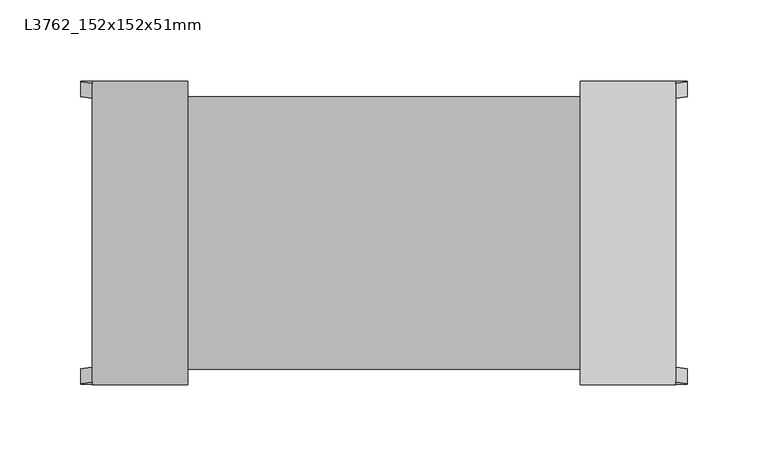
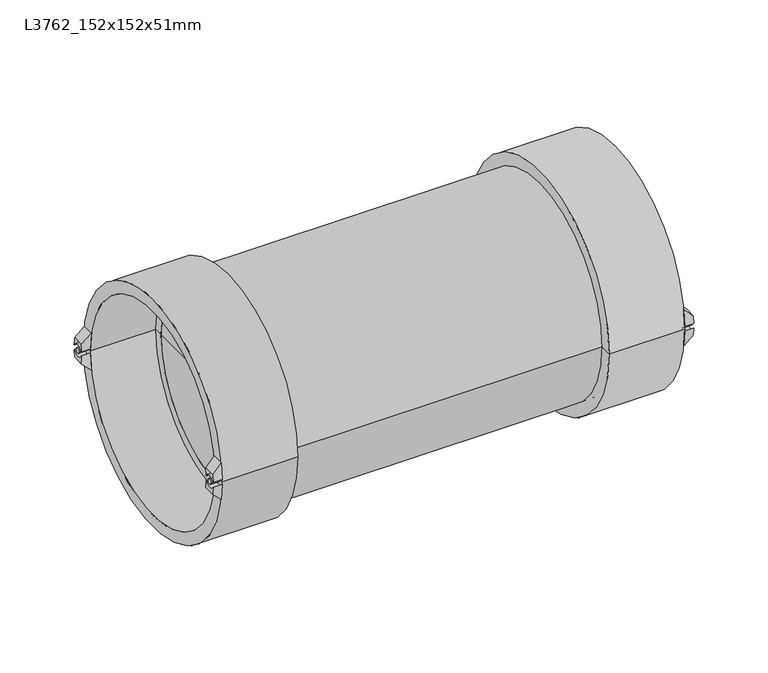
"""IFC4 building model written with IfcOpenShell, lengths in millimetres: pipe fitting geometry, Durapipe_PipeFitting_VulcatheneEnfusion_SingleReducingWye_L37 : L3762_152x152x51mm."""

from ifc_helpers import new_model, si_unit, point, frame, frame_2d, origin, place, context, project, spatial, polyline, circle_curve, ellipse_curve, trimmed, segment, composite_curve, outline, extrude, source, transform, mapped, element, save
from ifc_brep_helpers import plane_surface, cylinder_surface, revolved_surface, advanced_brep


def l3762_152x152x51mm_5c1595e7(model_context):
    return source(origin(), model_context, "Body", "SolidModel", [
        advanced_brep(
        [(271.8, -84.2810146, -1.7890152), (271.8, -93.5810146, -1.885127), (271.8, -93.2626206, -7.94), (271.8, -83.9252429, -7.94), (264.7, -92.3902592, -15.0), (264.7, -93.5810146, -1.885127), (264.7, -84.2810146, -1.7890152), (264.7, -82.9547467, -15.0)],
        [
            (0, 1, circle_curve(frame((271.8, -88.95, 0.0), z_axis=(-1.0, 0.0, 0.0), x_axis=(0.0, 1.0, 0.0)), 5.0)),
            (1, 2, circle_curve(frame((271.8, 0.0, 0.0), z_axis=(1.0, 0.0, 0.0), x_axis=(0.0, 1.0, 0.0)), 93.6)),
            (2, 3),
            (3, 0, circle_curve(frame((271.8, 0.0, 0.0), z_axis=(-1.0, 0.0, 0.0), x_axis=(0.0, 1.0, 0.0)), 84.3)),
            (4, 5, circle_curve(frame((264.7, 0.0, 0.0), z_axis=(-1.0, 0.0, 0.0), x_axis=(0.0, 1.0, 0.0)), 93.6)),
            (5, 6, circle_curve(frame((264.7, -88.95, 0.0), z_axis=(1.0, 0.0, 0.0), x_axis=(0.0, 1.0, 0.0)), 5.0)),
            (6, 7, circle_curve(frame((264.7, 0.0, 0.0), z_axis=(1.0, 0.0, 0.0), x_axis=(0.0, 1.0, 0.0)), 84.3)),
            (7, 4),
            (6, 0),
            (3, 7, ellipse_curve(frame((279.7849858, 0.0, 0.0), z_axis=(0.705106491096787, 0.0, -0.7091014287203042), x_axis=(-0.7091014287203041, 0.0, -0.705106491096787)), 119.5564089, 84.3)),
            (4, 2, ellipse_curve(frame((279.7849858, 0.0, 0.0), z_axis=(-0.705106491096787, 0.0, 0.7091014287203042), x_axis=(0.7091014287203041, 0.0, 0.705106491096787)), 132.745906, 93.6)),
            (1, 5),
        ],
        [
            plane_surface(frame((271.8, -92.3902592, -15.0), z_axis=(1.0, 0.0, 0.0), x_axis=(0.0, 1.0, 0.0))),
            plane_surface(frame((264.7, -92.3902592, -15.0), z_axis=(-1.0, 0.0, 0.0), x_axis=(0.0, -1.0, 0.0))),
            revolved_surface(polyline([(195.00736543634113, 84.3, 0.0), (364.56260616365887, 84.3, 0.0)]), (264.7, 0.0, 0.0), (-1.0, 0.0, 0.0)),
            cylinder_surface(frame((264.7, 0.0, 0.0), z_axis=(1.0, 0.0, 0.0), x_axis=(0.0, 1.0, 0.0)), 93.6),
            revolved_surface(polyline([(271.8, -83.95, 0.0), (264.7, -83.95, 0.0)]), (264.7, -88.95, 0.0), (1.0, 0.0, 0.0)),
            plane_surface(frame((264.7, 93.6, -15.0), z_axis=(0.705106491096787, 0.0, -0.7091014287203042), x_axis=(0.0, -1.0, 0.0))),
        ],
        [
            (0, [[1, 2, 3, 4]]),
            (1, [[5, 6, 7, 8]]),
            (2, [[-7, 9, -4, 10]]),
            (3, [[-5, 11, -2, 12]]),
            (4, [[-1, -9, -6, -12]]),
            (5, [[-3, -11, -8, -10]]),
        ],
    ),
        advanced_brep(
        [(271.8, -93.5810146, 1.885127), (271.8, -84.2810146, 1.7890152), (271.8, -83.9252429, 7.94), (271.8, -93.2626206, 7.94), (264.7, -93.5810146, 1.885127), (264.7, -92.3902592, 15.0), (264.7, -82.9547467, 15.0), (264.7, -84.2810146, 1.7890152)],
        [
            (0, 1, circle_curve(frame((271.8, -88.95, 0.0), z_axis=(-1.0, 0.0, 0.0), x_axis=(0.0, 1.0, 0.0)), 5.0)),
            (1, 2, circle_curve(frame((271.8, 0.0, 0.0), z_axis=(-1.0, 0.0, 0.0), x_axis=(0.0, 1.0, 0.0)), 84.3)),
            (2, 3),
            (3, 0, circle_curve(frame((271.8, 0.0, 0.0), z_axis=(1.0, 0.0, 0.0), x_axis=(0.0, 1.0, 0.0)), 93.6)),
            (4, 5, circle_curve(frame((264.7, 0.0, 0.0), z_axis=(-1.0, 0.0, 0.0), x_axis=(0.0, 1.0, 0.0)), 93.6)),
            (5, 6),
            (6, 7, circle_curve(frame((264.7, 0.0, 0.0), z_axis=(1.0, 0.0, 0.0), x_axis=(0.0, 1.0, 0.0)), 84.3)),
            (7, 4, circle_curve(frame((264.7, -88.95, 0.0), z_axis=(1.0, 0.0, 0.0), x_axis=(0.0, 1.0, 0.0)), 5.0)),
            (6, 2, ellipse_curve(frame((279.7849858, 0.0, 0.0), z_axis=(0.7051064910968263, 0.0, 0.7091014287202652), x_axis=(-0.7091014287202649, 0.0, 0.7051064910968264)), 119.5564089, 84.3)),
            (1, 7),
            (4, 0),
            (3, 5, ellipse_curve(frame((279.7849858, 0.0, 0.0), z_axis=(-0.7051064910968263, 0.0, -0.7091014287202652), x_axis=(0.7091014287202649, 0.0, -0.7051064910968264)), 132.745906, 93.6)),
        ],
        [
            plane_surface(frame((271.8, -92.3902592, -15.0), z_axis=(1.0, 0.0, 0.0), x_axis=(0.0, 1.0, 0.0))),
            plane_surface(frame((264.7, -92.3902592, -15.0), z_axis=(-1.0, 0.0, 0.0), x_axis=(0.0, -1.0, 0.0))),
            revolved_surface(polyline([(195.00736543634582, 84.3, 0.0), (364.5626061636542, 84.3, 0.0)]), (264.7, 0.0, 0.0), (-1.0, 0.0, 0.0)),
            cylinder_surface(frame((264.7, 0.0, 0.0), z_axis=(1.0, 0.0, 0.0), x_axis=(0.0, 1.0, 0.0)), 93.6),
            revolved_surface(polyline([(271.8, -83.95, 0.0), (264.7, -83.95, 0.0)]), (264.7, -88.95, 0.0), (1.0, 0.0, 0.0)),
            plane_surface(frame((271.8, 93.6, 7.94), z_axis=(0.7051064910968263, 0.0, 0.7091014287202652), x_axis=(0.0, -1.0, 0.0))),
        ],
        [
            (0, [[1, 2, 3, 4]]),
            (1, [[5, 6, 7, 8]]),
            (2, [[-7, 9, -2, 10]]),
            (3, [[-5, 11, -4, 12]]),
            (4, [[-1, -11, -8, -10]]),
            (5, [[-3, -9, -6, -12]]),
        ],
    ),
        advanced_brep(
        [(271.8, 93.5810146, -1.885127), (271.8, 84.2810146, -1.7890152), (271.8, 83.9252429, -7.94), (271.8, 93.2626206, -7.94), (264.7, 93.5810146, -1.885127), (264.7, 92.3902592, -15.0), (264.7, 82.9547467, -15.0), (264.7, 84.2810146, -1.7890152)],
        [
            (0, 1, circle_curve(frame((271.8, 88.95, 0.0), z_axis=(-1.0, 0.0, 0.0), x_axis=(0.0, 1.0, 0.0)), 5.0)),
            (1, 2, circle_curve(frame((271.8, 0.0, 0.0), z_axis=(-1.0, 0.0, 0.0), x_axis=(0.0, 1.0, 0.0)), 84.3)),
            (2, 3),
            (3, 0, circle_curve(frame((271.8, 0.0, 0.0), z_axis=(1.0, 0.0, 0.0), x_axis=(0.0, 1.0, 0.0)), 93.6)),
            (4, 5, circle_curve(frame((264.7, 0.0, 0.0), z_axis=(-1.0, 0.0, 0.0), x_axis=(0.0, 1.0, 0.0)), 93.6)),
            (5, 6),
            (6, 7, circle_curve(frame((264.7, 0.0, 0.0), z_axis=(1.0, 0.0, 0.0), x_axis=(0.0, 1.0, 0.0)), 84.3)),
            (7, 4, circle_curve(frame((264.7, 88.95, 0.0), z_axis=(1.0, 0.0, 0.0), x_axis=(0.0, 1.0, 0.0)), 5.0)),
            (6, 2, ellipse_curve(frame((279.7849858, 0.0, 0.0), z_axis=(0.705106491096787, 0.0, -0.7091014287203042), x_axis=(-0.7091014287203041, 0.0, -0.705106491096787)), 119.5564089, 84.3)),
            (1, 7),
            (4, 0),
            (3, 5, ellipse_curve(frame((279.7849858, 0.0, 0.0), z_axis=(-0.705106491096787, 0.0, 0.7091014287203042), x_axis=(0.7091014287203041, 0.0, 0.705106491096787)), 132.745906, 93.6)),
        ],
        [
            plane_surface(frame((271.8, -92.3902592, -15.0), z_axis=(1.0, 0.0, 0.0), x_axis=(0.0, 1.0, 0.0))),
            plane_surface(frame((264.7, -92.3902592, -15.0), z_axis=(-1.0, 0.0, 0.0), x_axis=(0.0, -1.0, 0.0))),
            revolved_surface(polyline([(195.00736543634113, 84.3, 0.0), (364.56260616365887, 84.3, 0.0)]), (264.7, 0.0, 0.0), (-1.0, 0.0, 0.0)),
            cylinder_surface(frame((264.7, 0.0, 0.0), z_axis=(1.0, 0.0, 0.0), x_axis=(0.0, 1.0, 0.0)), 93.6),
            revolved_surface(polyline([(271.8, 93.95, 0.0), (264.7, 93.95, 0.0)]), (264.7, 88.95, 0.0), (1.0, 0.0, 0.0)),
            plane_surface(frame((264.7, 93.6, -15.0), z_axis=(0.705106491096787, 0.0, -0.7091014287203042), x_axis=(0.0, -1.0, 0.0))),
        ],
        [
            (0, [[1, 2, 3, 4]]),
            (1, [[5, 6, 7, 8]]),
            (2, [[-7, 9, -2, 10]]),
            (3, [[-5, 11, -4, 12]]),
            (4, [[-1, -11, -8, -10]]),
            (5, [[-3, -9, -6, -12]]),
        ],
    ),
        advanced_brep(
        [(271.8, 84.2810146, 1.7890152), (271.8, 93.5810146, 1.885127), (271.8, 93.2626206, 7.94), (271.8, 83.9252429, 7.94), (264.7, 92.3902592, 15.0), (264.7, 93.5810146, 1.885127), (264.7, 84.2810146, 1.7890152), (264.7, 82.9547467, 15.0)],
        [
            (0, 1, circle_curve(frame((271.8, 88.95, 0.0), z_axis=(-1.0, 0.0, 0.0), x_axis=(0.0, 1.0, 0.0)), 5.0)),
            (1, 2, circle_curve(frame((271.8, 0.0, 0.0), z_axis=(1.0, 0.0, 0.0), x_axis=(0.0, 1.0, 0.0)), 93.6)),
            (2, 3),
            (3, 0, circle_curve(frame((271.8, 0.0, 0.0), z_axis=(-1.0, 0.0, 0.0), x_axis=(0.0, 1.0, 0.0)), 84.3)),
            (4, 5, circle_curve(frame((264.7, 0.0, 0.0), z_axis=(-1.0, 0.0, 0.0), x_axis=(0.0, 1.0, 0.0)), 93.6)),
            (5, 6, circle_curve(frame((264.7, 88.95, 0.0), z_axis=(1.0, 0.0, 0.0), x_axis=(0.0, 1.0, 0.0)), 5.0)),
            (6, 7, circle_curve(frame((264.7, 0.0, 0.0), z_axis=(1.0, 0.0, 0.0), x_axis=(0.0, 1.0, 0.0)), 84.3)),
            (7, 4),
            (6, 0),
            (3, 7, ellipse_curve(frame((279.7849858, 0.0, 0.0), z_axis=(0.7051064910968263, 0.0, 0.7091014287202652), x_axis=(-0.7091014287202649, 0.0, 0.7051064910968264)), 119.5564089, 84.3)),
            (4, 2, ellipse_curve(frame((279.7849858, 0.0, 0.0), z_axis=(-0.7051064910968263, 0.0, -0.7091014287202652), x_axis=(0.7091014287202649, 0.0, -0.7051064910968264)), 132.745906, 93.6)),
            (1, 5),
        ],
        [
            plane_surface(frame((271.8, -92.3902592, -15.0), z_axis=(1.0, 0.0, 0.0), x_axis=(0.0, 1.0, 0.0))),
            plane_surface(frame((264.7, -92.3902592, -15.0), z_axis=(-1.0, 0.0, 0.0), x_axis=(0.0, -1.0, 0.0))),
            revolved_surface(polyline([(195.00736543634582, 84.3, 0.0), (364.5626061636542, 84.3, 0.0)]), (264.7, 0.0, 0.0), (-1.0, 0.0, 0.0)),
            cylinder_surface(frame((264.7, 0.0, 0.0), z_axis=(1.0, 0.0, 0.0), x_axis=(0.0, 1.0, 0.0)), 93.6),
            revolved_surface(polyline([(271.8, 93.95, 0.0), (264.7, 93.95, 0.0)]), (264.7, 88.95, 0.0), (1.0, 0.0, 0.0)),
            plane_surface(frame((271.8, 93.6, 7.94), z_axis=(0.7051064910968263, 0.0, 0.7091014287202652), x_axis=(0.0, -1.0, 0.0))),
        ],
        [
            (0, [[1, 2, 3, 4]]),
            (1, [[5, 6, 7, 8]]),
            (2, [[-7, 9, -4, 10]]),
            (3, [[-5, 11, -2, 12]]),
            (4, [[-1, -9, -6, -12]]),
            (5, [[-3, -11, -8, -10]]),
        ],
    ),
        extrude(outline(composite_curve([segment(trimmed(circle_curve(frame_2d((-88.95, 0.0)), 2.0), [point((-90.95, 0.0))], [point((-86.95, 0.0))], False, "CARTESIAN"), True, "CONTINUOUS"), segment(trimmed(circle_curve(frame_2d((-88.95, 0.0)), 2.0), [point((-86.95, 0.0))], [point((-90.95, 0.0))], False, "CARTESIAN"), True, "CONTINUOUS")], self_intersect=False)), frame((264.7, 0.0, 0.0), z_axis=(1.0, 0.0, 0.0), x_axis=(0.0, 1.0, 0.0)), (0.0, 0.0, 1.0), 7.1),
        extrude(outline(composite_curve([segment(trimmed(circle_curve(frame_2d((88.95, 0.0)), 2.0), [point((86.95, 0.0))], [point((90.95, 0.0))], False, "CARTESIAN"), True, "CONTINUOUS"), segment(trimmed(circle_curve(frame_2d((88.95, 0.0)), 2.0), [point((90.95, 0.0))], [point((86.95, 0.0))], False, "CARTESIAN"), True, "CONTINUOUS")], self_intersect=False)), frame((264.7, 0.0, 0.0), z_axis=(1.0, 0.0, 0.0), x_axis=(0.0, 1.0, 0.0)), (0.0, 0.0, 1.0), 7.1),
        advanced_brep(
        [(213.9, -76.95, 0.0), (213.9, 76.95, 0.0), (213.9, 84.15, 0.0), (213.9, -84.15, 0.0), (206.0, -76.95, 0.0), (206.0, 76.95, 0.0), (206.0, -93.75, 0.0), (206.0, 93.75, 0.0), (264.7, -93.75, 0.0), (264.7, 93.75, 0.0), (264.7, -84.15, 0.0), (264.7, 84.15, 0.0)],
        [
            (0, 1, circle_curve(frame((213.9, 0.0, 0.0), z_axis=(-1.0, 0.0, 0.0), x_axis=(0.0, 1.0, 0.0)), 76.95)),
            (1, 2),
            (2, 3, circle_curve(frame((213.9, 0.0, 0.0), z_axis=(1.0, 0.0, 0.0), x_axis=(0.0, 1.0, 0.0)), 84.15)),
            (3, 0),
            (1, 0, circle_curve(frame((213.9, 0.0, 0.0), z_axis=(-1.0, 0.0, 0.0), x_axis=(0.0, 1.0, 0.0)), 76.95)),
            (3, 2, circle_curve(frame((213.9, 0.0, 0.0), z_axis=(1.0, 0.0, 0.0), x_axis=(0.0, 1.0, 0.0)), 84.15)),
            (4, 5, circle_curve(frame((206.0, 0.0, 0.0), z_axis=(-1.0, 0.0, 0.0), x_axis=(0.0, 1.0, 0.0)), 76.95)),
            (5, 1),
            (0, 4),
            (5, 4, circle_curve(frame((206.0, 0.0, 0.0), z_axis=(-1.0, 0.0, 0.0), x_axis=(0.0, 1.0, 0.0)), 76.95)),
            (6, 7, circle_curve(frame((206.0, 0.0, 0.0), z_axis=(-1.0, 0.0, 0.0), x_axis=(0.0, 1.0, 0.0)), 93.75)),
            (7, 5),
            (4, 6),
            (7, 6, circle_curve(frame((206.0, 0.0, 0.0), z_axis=(-1.0, 0.0, 0.0), x_axis=(0.0, 1.0, 0.0)), 93.75)),
            (8, 9, circle_curve(frame((264.7, 0.0, 0.0), z_axis=(-1.0, 0.0, 0.0), x_axis=(0.0, 1.0, 0.0)), 93.75)),
            (9, 7),
            (6, 8),
            (9, 8, circle_curve(frame((264.7, 0.0, 0.0), z_axis=(-1.0, 0.0, 0.0), x_axis=(0.0, 1.0, 0.0)), 93.75)),
            (10, 11, circle_curve(frame((264.7, 0.0, 0.0), z_axis=(-1.0, 0.0, 0.0), x_axis=(0.0, 1.0, 0.0)), 84.15)),
            (11, 9),
            (8, 10),
            (11, 10, circle_curve(frame((264.7, 0.0, 0.0), z_axis=(-1.0, 0.0, 0.0), x_axis=(0.0, 1.0, 0.0)), 84.15)),
            (2, 11),
            (10, 3),
        ],
        [
            plane_surface(frame((213.9, 0.0, 0.0), z_axis=(1.0, 0.0, 0.0), x_axis=(0.0, 1.0, 0.0))),
            revolved_surface(polyline([(213.9000000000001, 76.95, 0.0), (206.0, 76.95, 0.0)]), (2778.6826241, 0.0, 0.0), (1.0, 0.0, 0.0)),
            plane_surface(frame((206.0, 0.0, 0.0), z_axis=(-1.0, 0.0, 0.0), x_axis=(0.0, 1.0, 0.0))),
            cylinder_surface(frame((2778.6826241, 0.0, 0.0), z_axis=(1.0, 0.0, 0.0), x_axis=(0.0, 1.0, 0.0)), 93.75),
            plane_surface(frame((264.7, 0.0, 0.0), z_axis=(1.0, 0.0, 0.0), x_axis=(0.0, 1.0, 0.0))),
            revolved_surface(polyline([(264.6999999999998, 84.15, 0.0), (213.9000000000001, 84.15, 0.0)]), (2778.6826241, 0.0, 0.0), (1.0, 0.0, 0.0)),
        ],
        [
            (0, [[1, 2, 3, 4]]),
            (0, [[5, -4, 6, -2]]),
            (1, [[7, 8, -1, 9]]),
            (1, [[10, -9, -5, -8]]),
            (2, [[11, 12, -7, 13]]),
            (2, [[14, -13, -10, -12]]),
            (3, [[15, 16, -11, 17]]),
            (3, [[18, -17, -14, -16]]),
            (4, [[19, 20, -15, 21]]),
            (4, [[22, -21, -18, -20]]),
            (5, [[-3, 23, -19, 24]]),
            (5, [[-6, -24, -22, -23]]),
        ],
    ),
        advanced_brep(
        [(-102.4, -84.2810146, 1.7890152), (-102.4, -93.5810146, 1.885127), (-102.4, -93.2626206, 7.94), (-102.4, -83.9252429, 7.94), (-95.3, -92.3902592, 15.0), (-95.3, -93.5810146, 1.885127), (-95.3, -84.2810146, 1.7890152), (-95.3, -82.9547467, 15.0)],
        [
            (0, 1, circle_curve(frame((-102.4, -88.95, 0.0), z_axis=(1.0, 0.0, 0.0), x_axis=(0.0, 1.0, 0.0)), 5.0)),
            (1, 2, circle_curve(frame((-102.4, 0.0, 0.0), z_axis=(-1.0, 0.0, 0.0), x_axis=(0.0, 1.0, 0.0)), 93.6)),
            (2, 3),
            (3, 0, circle_curve(frame((-102.4, 0.0, 0.0), z_axis=(1.0, 0.0, 0.0), x_axis=(0.0, 1.0, 0.0)), 84.3)),
            (4, 5, circle_curve(frame((-95.3, 0.0, 0.0), z_axis=(1.0, 0.0, 0.0), x_axis=(0.0, 1.0, 0.0)), 93.6)),
            (5, 6, circle_curve(frame((-95.3, -88.95, 0.0), z_axis=(-1.0, 0.0, 0.0), x_axis=(0.0, 1.0, 0.0)), 5.0)),
            (6, 7, circle_curve(frame((-95.3, 0.0, 0.0), z_axis=(-1.0, 0.0, 0.0), x_axis=(0.0, 1.0, 0.0)), 84.3)),
            (7, 4),
            (6, 0),
            (3, 7, ellipse_curve(frame((-110.3849858, 0.0, 0.0), z_axis=(-0.705106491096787, 0.0, 0.7091014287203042), x_axis=(0.7091014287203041, 0.0, 0.705106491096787)), 119.5564089, 84.3)),
            (4, 2, ellipse_curve(frame((-110.3849858, 0.0, 0.0), z_axis=(0.705106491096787, 0.0, -0.7091014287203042), x_axis=(-0.7091014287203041, 0.0, -0.705106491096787)), 132.745906, 93.6)),
            (1, 5),
        ],
        [
            plane_surface(frame((-102.4, -92.3902592, 15.0), z_axis=(-1.0, 0.0, 0.0), x_axis=(0.0, 1.0, 0.0))),
            plane_surface(frame((-95.3, -92.3902592, 15.0), z_axis=(1.0, 0.0, 0.0), x_axis=(0.0, -1.0, 0.0))),
            revolved_surface(polyline([(-25.607365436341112, 84.3, 0.0), (-195.1626061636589, 84.3, 0.0)]), (-95.3, 0.0, 0.0), (1.0, 0.0, 0.0)),
            cylinder_surface(frame((-95.3, 0.0, 0.0), z_axis=(-1.0, 0.0, 0.0), x_axis=(0.0, 1.0, 0.0)), 93.6),
            revolved_surface(polyline([(-102.4, -83.95, 0.0), (-95.3, -83.95, 0.0)]), (-95.3, -88.95, 0.0), (-1.0, 0.0, 0.0)),
            plane_surface(frame((-95.3, 93.6, 15.0), z_axis=(-0.705106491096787, 0.0, 0.7091014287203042), x_axis=(0.0, -1.0, 0.0))),
        ],
        [
            (0, [[1, 2, 3, 4]]),
            (1, [[5, 6, 7, 8]]),
            (2, [[-7, 9, -4, 10]]),
            (3, [[-5, 11, -2, 12]]),
            (4, [[-1, -9, -6, -12]]),
            (5, [[-3, -11, -8, -10]]),
        ],
    ),
        advanced_brep(
        [(-102.4, -93.5810146, -1.885127), (-102.4, -84.2810146, -1.7890152), (-102.4, -83.9252429, -7.94), (-102.4, -93.2626206, -7.94), (-95.3, -93.5810146, -1.885127), (-95.3, -92.3902592, -15.0), (-95.3, -82.9547467, -15.0), (-95.3, -84.2810146, -1.7890152)],
        [
            (0, 1, circle_curve(frame((-102.4, -88.95, 0.0), z_axis=(1.0, 0.0, 0.0), x_axis=(0.0, 1.0, 0.0)), 5.0)),
            (1, 2, circle_curve(frame((-102.4, 0.0, 0.0), z_axis=(1.0, 0.0, 0.0), x_axis=(0.0, 1.0, 0.0)), 84.3)),
            (2, 3),
            (3, 0, circle_curve(frame((-102.4, 0.0, 0.0), z_axis=(-1.0, 0.0, 0.0), x_axis=(0.0, 1.0, 0.0)), 93.6)),
            (4, 5, circle_curve(frame((-95.3, 0.0, 0.0), z_axis=(1.0, 0.0, 0.0), x_axis=(0.0, 1.0, 0.0)), 93.6)),
            (5, 6),
            (6, 7, circle_curve(frame((-95.3, 0.0, 0.0), z_axis=(-1.0, 0.0, 0.0), x_axis=(0.0, 1.0, 0.0)), 84.3)),
            (7, 4, circle_curve(frame((-95.3, -88.95, 0.0), z_axis=(-1.0, 0.0, 0.0), x_axis=(0.0, 1.0, 0.0)), 5.0)),
            (6, 2, ellipse_curve(frame((-110.3849858, 0.0, 0.0), z_axis=(-0.7051064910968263, 0.0, -0.7091014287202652), x_axis=(0.7091014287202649, 0.0, -0.7051064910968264)), 119.5564089, 84.3)),
            (1, 7),
            (4, 0),
            (3, 5, ellipse_curve(frame((-110.3849858, 0.0, 0.0), z_axis=(0.7051064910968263, 0.0, 0.7091014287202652), x_axis=(-0.7091014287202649, 0.0, 0.7051064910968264)), 132.745906, 93.6)),
        ],
        [
            plane_surface(frame((-102.4, -92.3902592, 15.0), z_axis=(-1.0, 0.0, 0.0), x_axis=(0.0, 1.0, 0.0))),
            plane_surface(frame((-95.3, -92.3902592, 15.0), z_axis=(1.0, 0.0, 0.0), x_axis=(0.0, -1.0, 0.0))),
            revolved_surface(polyline([(-25.607365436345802, 84.3, 0.0), (-195.16260616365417, 84.3, 0.0)]), (-95.3, 0.0, 0.0), (1.0, 0.0, 0.0)),
            cylinder_surface(frame((-95.3, 0.0, 0.0), z_axis=(-1.0, 0.0, 0.0), x_axis=(0.0, 1.0, 0.0)), 93.6),
            revolved_surface(polyline([(-102.4, -83.95, 0.0), (-95.3, -83.95, 0.0)]), (-95.3, -88.95, 0.0), (-1.0, 0.0, 0.0)),
            plane_surface(frame((-102.4, 93.6, -7.94), z_axis=(-0.7051064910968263, 0.0, -0.7091014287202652), x_axis=(0.0, -1.0, 0.0))),
        ],
        [
            (0, [[1, 2, 3, 4]]),
            (1, [[5, 6, 7, 8]]),
            (2, [[-7, 9, -2, 10]]),
            (3, [[-5, 11, -4, 12]]),
            (4, [[-1, -11, -8, -10]]),
            (5, [[-3, -9, -6, -12]]),
        ],
    ),
        advanced_brep(
        [(-102.4, 93.5810146, 1.885127), (-102.4, 84.2810146, 1.7890152), (-102.4, 83.9252429, 7.94), (-102.4, 93.2626206, 7.94), (-95.3, 93.5810146, 1.885127), (-95.3, 92.3902592, 15.0), (-95.3, 82.9547467, 15.0), (-95.3, 84.2810146, 1.7890152)],
        [
            (0, 1, circle_curve(frame((-102.4, 88.95, 0.0), z_axis=(1.0, 0.0, 0.0), x_axis=(0.0, 1.0, 0.0)), 5.0)),
            (1, 2, circle_curve(frame((-102.4, 0.0, 0.0), z_axis=(1.0, 0.0, 0.0), x_axis=(0.0, 1.0, 0.0)), 84.3)),
            (2, 3),
            (3, 0, circle_curve(frame((-102.4, 0.0, 0.0), z_axis=(-1.0, 0.0, 0.0), x_axis=(0.0, 1.0, 0.0)), 93.6)),
            (4, 5, circle_curve(frame((-95.3, 0.0, 0.0), z_axis=(1.0, 0.0, 0.0), x_axis=(0.0, 1.0, 0.0)), 93.6)),
            (5, 6),
            (6, 7, circle_curve(frame((-95.3, 0.0, 0.0), z_axis=(-1.0, 0.0, 0.0), x_axis=(0.0, 1.0, 0.0)), 84.3)),
            (7, 4, circle_curve(frame((-95.3, 88.95, 0.0), z_axis=(-1.0, 0.0, 0.0), x_axis=(0.0, 1.0, 0.0)), 5.0)),
            (6, 2, ellipse_curve(frame((-110.3849858, 0.0, 0.0), z_axis=(-0.705106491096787, 0.0, 0.7091014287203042), x_axis=(0.7091014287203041, 0.0, 0.705106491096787)), 119.5564089, 84.3)),
            (1, 7),
            (4, 0),
            (3, 5, ellipse_curve(frame((-110.3849858, 0.0, 0.0), z_axis=(0.705106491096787, 0.0, -0.7091014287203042), x_axis=(-0.7091014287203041, 0.0, -0.705106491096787)), 132.745906, 93.6)),
        ],
        [
            plane_surface(frame((-102.4, -92.3902592, 15.0), z_axis=(-1.0, 0.0, 0.0), x_axis=(0.0, 1.0, 0.0))),
            plane_surface(frame((-95.3, -92.3902592, 15.0), z_axis=(1.0, 0.0, 0.0), x_axis=(0.0, -1.0, 0.0))),
            revolved_surface(polyline([(-25.607365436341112, 84.3, 0.0), (-195.1626061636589, 84.3, 0.0)]), (-95.3, 0.0, 0.0), (1.0, 0.0, 0.0)),
            cylinder_surface(frame((-95.3, 0.0, 0.0), z_axis=(-1.0, 0.0, 0.0), x_axis=(0.0, 1.0, 0.0)), 93.6),
            revolved_surface(polyline([(-102.4, 93.95, 0.0), (-95.3, 93.95, 0.0)]), (-95.3, 88.95, 0.0), (-1.0, 0.0, 0.0)),
            plane_surface(frame((-95.3, 93.6, 15.0), z_axis=(-0.705106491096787, 0.0, 0.7091014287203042), x_axis=(0.0, -1.0, 0.0))),
        ],
        [
            (0, [[1, 2, 3, 4]]),
            (1, [[5, 6, 7, 8]]),
            (2, [[-7, 9, -2, 10]]),
            (3, [[-5, 11, -4, 12]]),
            (4, [[-1, -11, -8, -10]]),
            (5, [[-3, -9, -6, -12]]),
        ],
    ),
        advanced_brep(
        [(-102.4, 84.2810146, -1.7890152), (-102.4, 93.5810146, -1.885127), (-102.4, 93.2626206, -7.94), (-102.4, 83.9252429, -7.94), (-95.3, 92.3902592, -15.0), (-95.3, 93.5810146, -1.885127), (-95.3, 84.2810146, -1.7890152), (-95.3, 82.9547467, -15.0)],
        [
            (0, 1, circle_curve(frame((-102.4, 88.95, 0.0), z_axis=(1.0, 0.0, 0.0), x_axis=(0.0, 1.0, 0.0)), 5.0)),
            (1, 2, circle_curve(frame((-102.4, 0.0, 0.0), z_axis=(-1.0, 0.0, 0.0), x_axis=(0.0, 1.0, 0.0)), 93.6)),
            (2, 3),
            (3, 0, circle_curve(frame((-102.4, 0.0, 0.0), z_axis=(1.0, 0.0, 0.0), x_axis=(0.0, 1.0, 0.0)), 84.3)),
            (4, 5, circle_curve(frame((-95.3, 0.0, 0.0), z_axis=(1.0, 0.0, 0.0), x_axis=(0.0, 1.0, 0.0)), 93.6)),
            (5, 6, circle_curve(frame((-95.3, 88.95, 0.0), z_axis=(-1.0, 0.0, 0.0), x_axis=(0.0, 1.0, 0.0)), 5.0)),
            (6, 7, circle_curve(frame((-95.3, 0.0, 0.0), z_axis=(-1.0, 0.0, 0.0), x_axis=(0.0, 1.0, 0.0)), 84.3)),
            (7, 4),
            (6, 0),
            (3, 7, ellipse_curve(frame((-110.3849858, 0.0, 0.0), z_axis=(-0.7051064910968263, 0.0, -0.7091014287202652), x_axis=(0.7091014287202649, 0.0, -0.7051064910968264)), 119.5564089, 84.3)),
            (4, 2, ellipse_curve(frame((-110.3849858, 0.0, 0.0), z_axis=(0.7051064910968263, 0.0, 0.7091014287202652), x_axis=(-0.7091014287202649, 0.0, 0.7051064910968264)), 132.745906, 93.6)),
            (1, 5),
        ],
        [
            plane_surface(frame((-102.4, -92.3902592, 15.0), z_axis=(-1.0, 0.0, 0.0), x_axis=(0.0, 1.0, 0.0))),
            plane_surface(frame((-95.3, -92.3902592, 15.0), z_axis=(1.0, 0.0, 0.0), x_axis=(0.0, -1.0, 0.0))),
            revolved_surface(polyline([(-25.607365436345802, 84.3, 0.0), (-195.16260616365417, 84.3, 0.0)]), (-95.3, 0.0, 0.0), (1.0, 0.0, 0.0)),
            cylinder_surface(frame((-95.3, 0.0, 0.0), z_axis=(-1.0, 0.0, 0.0), x_axis=(0.0, 1.0, 0.0)), 93.6),
            revolved_surface(polyline([(-102.4, 93.95, 0.0), (-95.3, 93.95, 0.0)]), (-95.3, 88.95, 0.0), (-1.0, 0.0, 0.0)),
            plane_surface(frame((-102.4, 93.6, -7.94), z_axis=(-0.7051064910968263, 0.0, -0.7091014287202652), x_axis=(0.0, -1.0, 0.0))),
        ],
        [
            (0, [[1, 2, 3, 4]]),
            (1, [[5, 6, 7, 8]]),
            (2, [[-7, 9, -4, 10]]),
            (3, [[-5, 11, -2, 12]]),
            (4, [[-1, -9, -6, -12]]),
            (5, [[-3, -11, -8, -10]]),
        ],
    ),
        extrude(outline(composite_curve([segment(trimmed(circle_curve(frame_2d((-88.95, 0.0)), 2.0), [point((-90.95, 0.0))], [point((-86.95, 0.0))], False, "CARTESIAN"), True, "CONTINUOUS"), segment(trimmed(circle_curve(frame_2d((-88.95, 0.0)), 2.0), [point((-86.95, 0.0))], [point((-90.95, 0.0))], False, "CARTESIAN"), True, "CONTINUOUS")], self_intersect=False)), frame((-102.4, 0.0, 0.0), z_axis=(1.0, 0.0, 0.0), x_axis=(0.0, 1.0, 0.0)), (0.0, 0.0, 1.0), 7.1),
        extrude(outline(composite_curve([segment(trimmed(circle_curve(frame_2d((88.95, 0.0)), 2.0), [point((86.95, 0.0))], [point((90.95, 0.0))], False, "CARTESIAN"), True, "CONTINUOUS"), segment(trimmed(circle_curve(frame_2d((88.95, 0.0)), 2.0), [point((90.95, 0.0))], [point((86.95, 0.0))], False, "CARTESIAN"), True, "CONTINUOUS")], self_intersect=False)), frame((-102.4, 0.0, 0.0), z_axis=(1.0, 0.0, 0.0), x_axis=(0.0, 1.0, 0.0)), (0.0, 0.0, 1.0), 7.1),
        advanced_brep(
        [(-44.5, -76.95, 0.0), (-44.5, 76.95, 0.0), (-44.5, 84.15, 0.0), (-44.5, -84.15, 0.0), (-36.6, -76.95, 0.0), (-36.6, 76.95, 0.0), (-36.6, -93.75, 0.0), (-36.6, 93.75, 0.0), (-95.3, -93.75, 0.0), (-95.3, 93.75, 0.0), (-95.3, -84.15, 0.0), (-95.3, 84.15, 0.0)],
        [
            (0, 1, circle_curve(frame((-44.5, 0.0, 0.0), z_axis=(1.0, 0.0, 0.0), x_axis=(0.0, 1.0, 0.0)), 76.95)),
            (1, 2),
            (2, 3, circle_curve(frame((-44.5, 0.0, 0.0), z_axis=(-1.0, 0.0, 0.0), x_axis=(0.0, 1.0, 0.0)), 84.15)),
            (3, 0),
            (1, 0, circle_curve(frame((-44.5, 0.0, 0.0), z_axis=(1.0, 0.0, 0.0), x_axis=(0.0, 1.0, 0.0)), 76.95)),
            (3, 2, circle_curve(frame((-44.5, 0.0, 0.0), z_axis=(-1.0, 0.0, 0.0), x_axis=(0.0, 1.0, 0.0)), 84.15)),
            (4, 5, circle_curve(frame((-36.6, 0.0, 0.0), z_axis=(1.0, 0.0, 0.0), x_axis=(0.0, 1.0, 0.0)), 76.95)),
            (5, 1),
            (0, 4),
            (5, 4, circle_curve(frame((-36.6, 0.0, 0.0), z_axis=(1.0, 0.0, 0.0), x_axis=(0.0, 1.0, 0.0)), 76.95)),
            (6, 7, circle_curve(frame((-36.6, 0.0, 0.0), z_axis=(1.0, 0.0, 0.0), x_axis=(0.0, 1.0, 0.0)), 93.75)),
            (7, 5),
            (4, 6),
            (7, 6, circle_curve(frame((-36.6, 0.0, 0.0), z_axis=(1.0, 0.0, 0.0), x_axis=(0.0, 1.0, 0.0)), 93.75)),
            (8, 9, circle_curve(frame((-95.3, 0.0, 0.0), z_axis=(1.0, 0.0, 0.0), x_axis=(0.0, 1.0, 0.0)), 93.75)),
            (9, 7),
            (6, 8),
            (9, 8, circle_curve(frame((-95.3, 0.0, 0.0), z_axis=(1.0, 0.0, 0.0), x_axis=(0.0, 1.0, 0.0)), 93.75)),
            (10, 11, circle_curve(frame((-95.3, 0.0, 0.0), z_axis=(1.0, 0.0, 0.0), x_axis=(0.0, 1.0, 0.0)), 84.15)),
            (11, 9),
            (8, 10),
            (11, 10, circle_curve(frame((-95.3, 0.0, 0.0), z_axis=(1.0, 0.0, 0.0), x_axis=(0.0, 1.0, 0.0)), 84.15)),
            (2, 11),
            (10, 3),
        ],
        [
            plane_surface(frame((-44.5, 0.0, 0.0), z_axis=(-1.0, 0.0, 0.0), x_axis=(0.0, 1.0, 0.0))),
            revolved_surface(polyline([(-44.5, 76.95, 0.0), (-36.59999999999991, 76.95, 0.0)]), (-2609.2826241, 0.0, 0.0), (-1.0, 0.0, 0.0)),
            plane_surface(frame((-36.6, 0.0, 0.0), z_axis=(1.0, 0.0, 0.0), x_axis=(0.0, 1.0, 0.0))),
            cylinder_surface(frame((-2609.2826241, 0.0, 0.0), z_axis=(-1.0, 0.0, 0.0), x_axis=(0.0, 1.0, 0.0)), 93.75),
            plane_surface(frame((-95.3, 0.0, 0.0), z_axis=(-1.0, 0.0, 0.0), x_axis=(0.0, 1.0, 0.0))),
            revolved_surface(polyline([(-95.30000000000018, 84.15, 0.0), (-44.5, 84.15, 0.0)]), (-2609.2826241, 0.0, 0.0), (-1.0, 0.0, 0.0)),
        ],
        [
            (0, [[1, 2, 3, 4]]),
            (0, [[5, -4, 6, -2]]),
            (1, [[7, 8, -1, 9]]),
            (1, [[10, -9, -5, -8]]),
            (2, [[11, 12, -7, 13]]),
            (2, [[14, -13, -10, -12]]),
            (3, [[15, 16, -11, 17]]),
            (3, [[18, -17, -14, -16]]),
            (4, [[19, 20, -15, 21]]),
            (4, [[22, -21, -18, -20]]),
            (5, [[-3, 23, -19, 24]]),
            (5, [[-6, -24, -22, -23]]),
        ],
    ),
        advanced_brep(
        [(-44.5, 0.0, 0.0), (-44.5, 84.15, 0.0), (-44.5, -84.15, 0.0), (213.9, -84.15, 0.0), (213.9, 84.15, 0.0), (213.9, 0.0, 0.0)],
        [
            (0, 1),
            (1, 2, circle_curve(frame((-44.5, 0.0, 0.0), z_axis=(-1.0, 0.0, 0.0), x_axis=(0.0, 1.0, 0.0)), 84.15)),
            (2, 0),
            (2, 1, circle_curve(frame((-44.5, 0.0, 0.0), z_axis=(-1.0, 0.0, 0.0), x_axis=(0.0, 1.0, 0.0)), 84.15)),
            (3, 4, circle_curve(frame((213.9, 0.0, 0.0), z_axis=(1.0, 0.0, 0.0), x_axis=(0.0, 1.0, 0.0)), 84.15)),
            (4, 5),
            (5, 3),
            (4, 3, circle_curve(frame((213.9, 0.0, 0.0), z_axis=(1.0, 0.0, 0.0), x_axis=(0.0, 1.0, 0.0)), 84.15)),
            (1, 4),
            (3, 2),
        ],
        [
            plane_surface(frame((-44.5, 0.0, 0.0), z_axis=(-1.0, 0.0, 0.0), x_axis=(0.0, 1.0, 0.0))),
            plane_surface(frame((213.9, 0.0, 0.0), z_axis=(1.0, 0.0, 0.0), x_axis=(0.0, 1.0, 0.0))),
            cylinder_surface(frame((254.7, 0.0, 0.0), z_axis=(-1.0, 0.0, 0.0), x_axis=(0.0, 1.0, 0.0)), 84.15),
        ],
        [
            (0, [[1, 2, 3]]),
            (0, [[-3, 4, -1]]),
            (1, [[5, 6, 7]]),
            (1, [[8, -7, -6]]),
            (2, [[-2, 9, -5, 10]]),
            (2, [[-4, -10, -8, -9]]),
        ],
    ),
    ])


if __name__ == "__main__":
    model = new_model("IFC4")
    model_context = context("Model", 3, world=origin())
    ifc_project = project(units=[si_unit("LENGTHUNIT", "METRE", prefix="MILLI")], contexts=[model_context])
    site = spatial("IfcSite", under=ifc_project)
    building = spatial("IfcBuilding", under=site)
    placement = place(None, origin())
    l3762_152x152x51mm_shape = l3762_152x152x51mm_5c1595e7(model_context)
    element("IfcPipeFitting", 1, ObjectType="Durapipe_PipeFitting_VulcatheneEnfusion_SingleReducingWye_L37 : L3762_152x152x51mm", at=placement, inside=building, context=model_context, shape_type="MappedRepresentation", body=[
        mapped(l3762_152x152x51mm_shape, transform((0.0, 0.0, 0.0), x_axis=(1.0, 0.0, 0.0), y_axis=(0.0, 1.0, 0.0), z_axis=(0.0, 0.0, 1.0))),
    ])
    save(model, "model.ifc")
